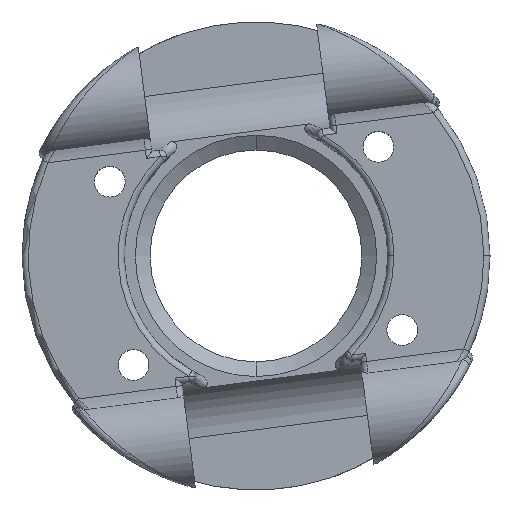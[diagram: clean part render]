
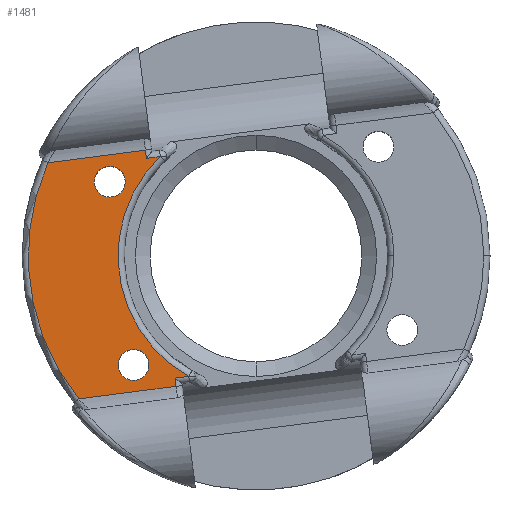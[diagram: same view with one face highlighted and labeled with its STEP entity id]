
A CAD part, top view. The second image highlights one B-rep face of the part: STEP entity #1481.
In plain terms, the highlighted planar face has unit normal (0, 0, 1).
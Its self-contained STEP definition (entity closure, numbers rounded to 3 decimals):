
#8 = AXIS2_PLACEMENT_3D ( 'NONE', #4603, #2590, #388 ) ;
#40 = VERTEX_POINT ( 'NONE', #4886 ) ;
#100 = VERTEX_POINT ( 'NONE', #4502 ) ;
#103 = VECTOR ( 'NONE', #4433, 1000. ) ;
#104 = CARTESIAN_POINT ( 'NONE',  ( -14.395, -11.62, 0. ) ) ;
#133 = CARTESIAN_POINT ( 'NONE',  ( -11.874, 7.271, 0. ) ) ;
#138 = VERTEX_POINT ( 'NONE', #2390 ) ;
#148 = ORIENTED_EDGE ( 'NONE', *, *, #5039, .F. ) ;
#293 = EDGE_CURVE ( 'NONE', #138, #614, #1043, .T. ) ;
#335 = DIRECTION ( 'NONE',  ( 0., 0., 1. ) ) ;
#368 = LINE ( 'NONE', #1452, #1052 ) ;
#388 = DIRECTION ( 'NONE',  ( 1., 0., 0. ) ) ;
#415 = EDGE_CURVE ( 'NONE', #1482, #2498, #2238, .T. ) ;
#507 = CARTESIAN_POINT ( 'NONE',  ( -5.452, -9.783, 0. ) ) ;
#520 = AXIS2_PLACEMENT_3D ( 'NONE', #2650, #1792, #4681 ) ;
#585 = DIRECTION ( 'NONE',  ( -0.992, -0.129, 0. ) ) ;
#603 = CARTESIAN_POINT ( 'NONE',  ( -7.735, -1.004, 0. ) ) ;
#609 = ORIENTED_EDGE ( 'NONE', *, *, #293, .T. ) ;
#614 = VERTEX_POINT ( 'NONE', #4038 ) ;
#658 = VECTOR ( 'NONE', #3006, 1000. ) ;
#720 = DIRECTION ( 'NONE',  ( 1., 0., 0. ) ) ;
#744 = VERTEX_POINT ( 'NONE', #2869 ) ;
#777 = CARTESIAN_POINT ( 'NONE',  ( -16.517, 7.606, 0. ) ) ;
#820 = CARTESIAN_POINT ( 'NONE',  ( -11.874, 6.021, 0. ) ) ;
#854 = EDGE_CURVE ( 'NONE', #744, #3477, #3459, .T. ) ;
#860 = LINE ( 'NONE', #2266, #658 ) ;
#1043 = LINE ( 'NONE', #603, #103 ) ;
#1052 = VECTOR ( 'NONE', #585, 1000. ) ;
#1161 = DIRECTION ( 'NONE',  ( 0., 0., 1. ) ) ;
#1183 = VERTEX_POINT ( 'NONE', #3095 ) ;
#1258 = AXIS2_PLACEMENT_3D ( 'NONE', #3269, #1161, #720 ) ;
#1263 = VECTOR ( 'NONE', #4755, 1000. ) ;
#1353 = LINE ( 'NONE', #4959, #2890 ) ;
#1440 = EDGE_LOOP ( 'NONE', ( #2577, #3546 ) ) ;
#1452 = CARTESIAN_POINT ( 'NONE',  ( -8.398, 7.985, 0. ) ) ;
#1481 = ADVANCED_FACE ( 'NONE', ( #2730, #1579, #3439 ), #4180, .T. ) ;
#1482 = VERTEX_POINT ( 'NONE', #507 ) ;
#1501 = ORIENTED_EDGE ( 'NONE', *, *, #3306, .T. ) ;
#1579 = FACE_BOUND ( 'NONE', #2224, .T. ) ;
#1581 = VECTOR ( 'NONE', #2029, 1000. ) ;
#1592 = CARTESIAN_POINT ( 'NONE',  ( -9.943, -7.604, 0. ) ) ;
#1659 = DIRECTION ( 'NONE',  ( 0., 0., -1. ) ) ;
#1662 = EDGE_CURVE ( 'NONE', #2498, #138, #368, .T. ) ;
#1694 = ORIENTED_EDGE ( 'NONE', *, *, #3808, .T. ) ;
#1792 = DIRECTION ( 'NONE',  ( 0., 0., 1. ) ) ;
#1859 = EDGE_CURVE ( 'NONE', #40, #4807, #3444, .T. ) ;
#1911 = ORIENTED_EDGE ( 'NONE', *, *, #5008, .T. ) ;
#2029 = DIRECTION ( 'NONE',  ( -0.992, -0.129, 0. ) ) ;
#2070 = EDGE_CURVE ( 'NONE', #1183, #1482, #2131, .T. ) ;
#2131 = LINE ( 'NONE', #3492, #1263 ) ;
#2224 = EDGE_LOOP ( 'NONE', ( #148, #5234 ) ) ;
#2238 = CIRCLE ( 'NONE', #3696, 11.2 ) ;
#2266 = CARTESIAN_POINT ( 'NONE',  ( -5.994, -10.529, 0. ) ) ;
#2363 = VERTEX_POINT ( 'NONE', #4810 ) ;
#2390 = CARTESIAN_POINT ( 'NONE',  ( -8.894, 7.921, 0. ) ) ;
#2418 = DIRECTION ( 'NONE',  ( 0., 0., 1. ) ) ;
#2479 = DIRECTION ( 'NONE',  ( 1., 0., 0. ) ) ;
#2498 = VERTEX_POINT ( 'NONE', #3262 ) ;
#2533 = CARTESIAN_POINT ( 'NONE',  ( 0., 0., 0. ) ) ;
#2577 = ORIENTED_EDGE ( 'NONE', *, *, #4448, .F. ) ;
#2590 = DIRECTION ( 'NONE',  ( 0., 0., 1. ) ) ;
#2650 = CARTESIAN_POINT ( 'NONE',  ( 0., 0., 0. ) ) ;
#2730 = FACE_OUTER_BOUND ( 'NONE', #4260, .T. ) ;
#2844 = VERTEX_POINT ( 'NONE', #104 ) ;
#2869 = CARTESIAN_POINT ( 'NONE',  ( -9.943, -10.104, 0. ) ) ;
#2890 = VECTOR ( 'NONE', #3297, 1000. ) ;
#2953 = DIRECTION ( 'NONE',  ( 0., 0., 1. ) ) ;
#3006 = DIRECTION ( 'NONE',  ( 0.992, 0.129, 0. ) ) ;
#3019 = CIRCLE ( 'NONE', #1258, 1.25 ) ;
#3025 = CIRCLE ( 'NONE', #5073, 1.25 ) ;
#3029 = AXIS2_PLACEMENT_3D ( 'NONE', #5042, #335, #3319 ) ;
#3095 = CARTESIAN_POINT ( 'NONE',  ( -6.576, -9.929, 0. ) ) ;
#3262 = CARTESIAN_POINT ( 'NONE',  ( -7.77, 8.067, 0. ) ) ;
#3269 = CARTESIAN_POINT ( 'NONE',  ( -11.874, 6.021, 0. ) ) ;
#3297 = DIRECTION ( 'NONE',  ( -0.129, 0.992, 0. ) ) ;
#3306 = EDGE_CURVE ( 'NONE', #100, #2844, #5471, .T. ) ;
#3319 = DIRECTION ( 'NONE',  ( 1., 0., 0. ) ) ;
#3439 = FACE_BOUND ( 'NONE', #1440, .T. ) ;
#3444 = CIRCLE ( 'NONE', #4329, 1.25 ) ;
#3459 = CIRCLE ( 'NONE', #3029, 1.25 ) ;
#3464 = ORIENTED_EDGE ( 'NONE', *, *, #1662, .T. ) ;
#3477 = VERTEX_POINT ( 'NONE', #1592 ) ;
#3492 = CARTESIAN_POINT ( 'NONE',  ( -5.452, -9.783, 0. ) ) ;
#3546 = ORIENTED_EDGE ( 'NONE', *, *, #854, .F. ) ;
#3696 = AXIS2_PLACEMENT_3D ( 'NONE', #2533, #1659, #5050 ) ;
#3755 = ORIENTED_EDGE ( 'NONE', *, *, #415, .T. ) ;
#3808 = EDGE_CURVE ( 'NONE', #2844, #2363, #860, .T. ) ;
#4014 = EDGE_CURVE ( 'NONE', #614, #100, #4150, .T. ) ;
#4038 = CARTESIAN_POINT ( 'NONE',  ( -8.98, 8.585, 0. ) ) ;
#4107 = CARTESIAN_POINT ( 'NONE',  ( -9.943, -8.854, 0. ) ) ;
#4150 = LINE ( 'NONE', #777, #1581 ) ;
#4180 = PLANE ( 'NONE',  #520 ) ;
#4260 = EDGE_LOOP ( 'NONE', ( #3464, #609, #5453, #1501, #1694, #1911, #4562, #3755 ) ) ;
#4277 = DIRECTION ( 'NONE',  ( 1., 0., 0. ) ) ;
#4329 = AXIS2_PLACEMENT_3D ( 'NONE', #820, #2953, #4277 ) ;
#4433 = DIRECTION ( 'NONE',  ( -0.129, 0.992, 0. ) ) ;
#4448 = EDGE_CURVE ( 'NONE', #3477, #744, #3025, .T. ) ;
#4502 = CARTESIAN_POINT ( 'NONE',  ( -16.885, 7.558, 0. ) ) ;
#4562 = ORIENTED_EDGE ( 'NONE', *, *, #2070, .T. ) ;
#4603 = CARTESIAN_POINT ( 'NONE',  ( 0., 0., 0. ) ) ;
#4681 = DIRECTION ( 'NONE',  ( 1., 0., 0. ) ) ;
#4755 = DIRECTION ( 'NONE',  ( 0.992, 0.129, 0. ) ) ;
#4807 = VERTEX_POINT ( 'NONE', #133 ) ;
#4810 = CARTESIAN_POINT ( 'NONE',  ( -6.49, -10.594, 0. ) ) ;
#4886 = CARTESIAN_POINT ( 'NONE',  ( -11.874, 4.771, 0. ) ) ;
#4959 = CARTESIAN_POINT ( 'NONE',  ( -7.735, -1.004, 0. ) ) ;
#5008 = EDGE_CURVE ( 'NONE', #2363, #1183, #1353, .T. ) ;
#5039 = EDGE_CURVE ( 'NONE', #4807, #40, #3019, .T. ) ;
#5042 = CARTESIAN_POINT ( 'NONE',  ( -9.943, -8.854, 0. ) ) ;
#5050 = DIRECTION ( 'NONE',  ( 1., 0., 0. ) ) ;
#5073 = AXIS2_PLACEMENT_3D ( 'NONE', #4107, #2418, #2479 ) ;
#5234 = ORIENTED_EDGE ( 'NONE', *, *, #1859, .F. ) ;
#5453 = ORIENTED_EDGE ( 'NONE', *, *, #4014, .T. ) ;
#5471 = CIRCLE ( 'NONE', #8, 18.5 ) ;
